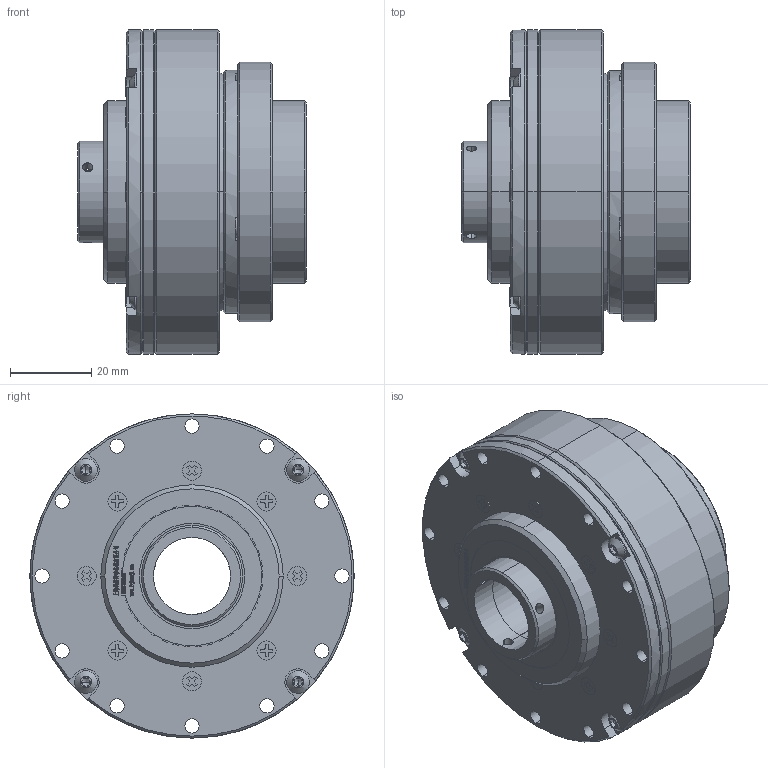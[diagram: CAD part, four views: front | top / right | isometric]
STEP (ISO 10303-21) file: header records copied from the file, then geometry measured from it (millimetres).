
FILE_DESCRIPTION (( 'STEP AP203' ), '1' );
FILE_NAME ('FXHSG炵蹈[LHSG-17-XXX-C-III].STEP', '2020-07-21T16:19:16', ( '' ), ( '' ), 'SwSTEP 2.0', 'SolidWorks 2016', '' );
FILE_SCHEMA (( 'CONFIG_CONTROL_DESIGN' ));
Length unit declared in the file: millimetre
Products named in the file (1): FXHSG炵蹈[LHSG-17-XXX-C-III]
Bounding box: 56.5 x 80 x 80 mm (x, y, z)
Volume: 182298.7 mm3; surface area: 55000.2 mm2
Topology: 31 solids, 31 shells, 2938 faces, 8181 edges, 5353 vertices
Faces by surface type: plane 1616, bspline 935, cylinder 256, cone 131
Entity records: 130491 total; most frequent: CARTESIAN_POINT 61421, ORIENTED_EDGE 16098, DIRECTION 11098, EDGE_CURVE 8049, VERTEX_POINT 5353, VECTOR 5296, LINE 5296, EDGE_LOOP 3170
